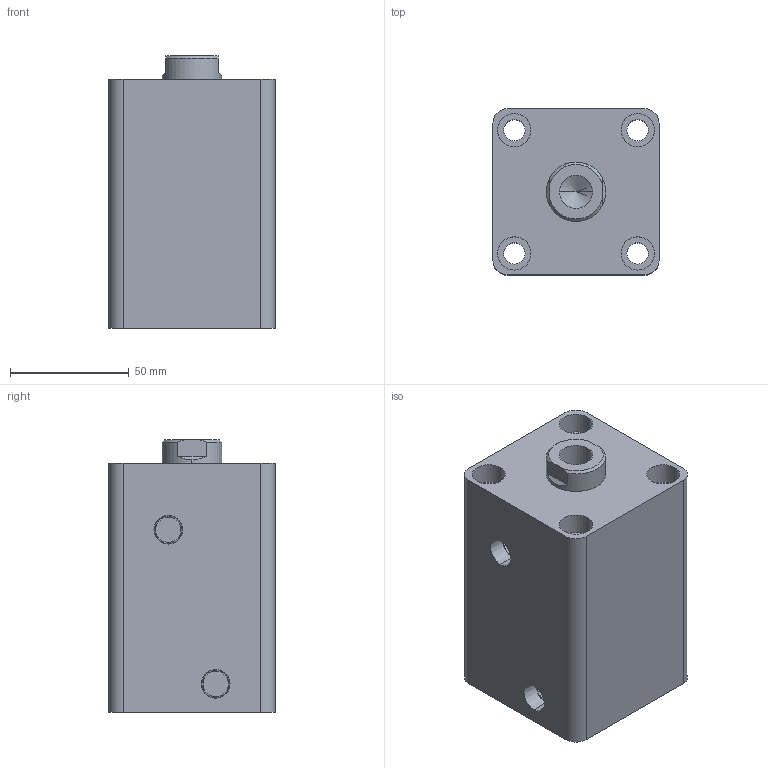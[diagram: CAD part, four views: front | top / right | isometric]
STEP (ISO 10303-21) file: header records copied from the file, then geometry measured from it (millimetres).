
FILE_DESCRIPTION (( 'STEP AP203' ), '1' );
FILE_NAME ('HTB-SD40-50N.STEP', '2019-10-07T06:52:02', ( '微软用户' ), ( '微软中国' ), 'SwSTEP 2.0', 'SolidWorks 2012', '' );
FILE_SCHEMA (( 'CONFIG_CONTROL_DESIGN' ));
Length unit declared in the file: millimetre
Products named in the file (3): HTB-SD40-50掛极; HTB-SD40-50N活塞杆; HTB-SD40-50N
Assembly tree (2 placements, depth 2):
  HTB-SD40-50N
    HTB-SD40-50掛极
    HTB-SD40-50N活塞杆
Bounding box: 70 x 70 x 115 mm (x, y, z)
Volume: 439202.4 mm3; surface area: 75830.3 mm2
Topology: 2 solids, 2 shells, 81 faces, 180 edges, 117 vertices
Faces by surface type: cylinder 42, plane 27, cone 8, torus 4
Entity records: 2603 total; most frequent: DIRECTION 444, CARTESIAN_POINT 409, ORIENTED_EDGE 356, AXIS2_PLACEMENT_3D 188, EDGE_CURVE 178, VERTEX_POINT 117, EDGE_LOOP 105, CIRCLE 102
